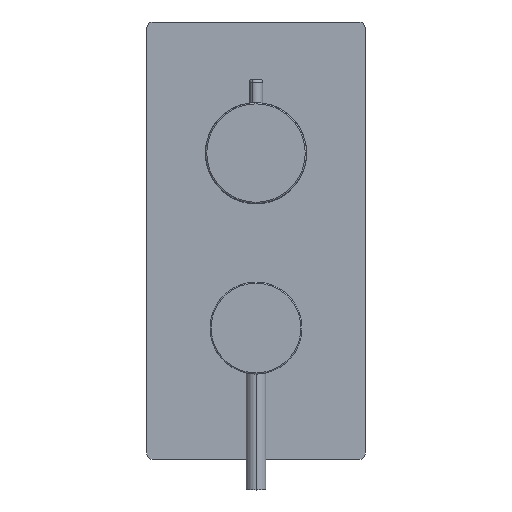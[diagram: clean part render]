
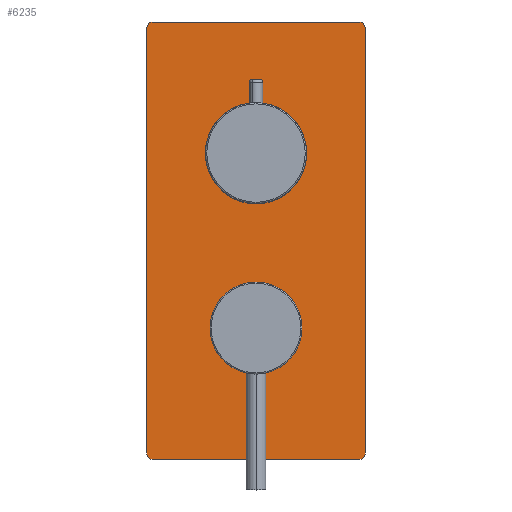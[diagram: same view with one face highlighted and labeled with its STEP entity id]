
A CAD part, top view. The second image highlights one B-rep face of the part: STEP entity #6235.
In plain terms, the highlighted planar face has unit normal (0, 0, 1) as drawn and (0, 0, -1) by its records, which use the part's own axes.
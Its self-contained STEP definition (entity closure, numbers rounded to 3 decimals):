
#66 = CIRCLE ( 'NONE', #23169, 20.7 ) ;
#136 = FACE_OUTER_BOUND ( 'NONE', #3936, .T. ) ;
#899 = EDGE_CURVE ( 'NONE', #25904, #6574, #38615, .T. ) ;
#1177 = AXIS2_PLACEMENT_3D ( 'NONE', #35202, #10245, #19746 ) ;
#1630 = VERTEX_POINT ( 'NONE', #13701 ) ;
#1998 = CARTESIAN_POINT ( 'NONE',  ( -97., -47., 0. ) ) ;
#2691 = CIRCLE ( 'NONE', #31033, 3. ) ;
#2893 = CARTESIAN_POINT ( 'NONE',  ( -97., 50., 0. ) ) ;
#2937 = EDGE_CURVE ( 'NONE', #25904, #14410, #10973, .T. ) ;
#3233 = EDGE_CURVE ( 'NONE', #27680, #19166, #22961, .T. ) ;
#3617 = CARTESIAN_POINT ( 'NONE',  ( -100., -47., 0. ) ) ;
#3755 = CARTESIAN_POINT ( 'NONE',  ( -97., 47., 0. ) ) ;
#3936 = EDGE_LOOP ( 'NONE', ( #17776, #4547, #23950, #18374, #36102, #36140, #36968, #8213 ) ) ;
#4018 = DIRECTION ( 'NONE',  ( 1., 0., 0. ) ) ;
#4085 = FACE_BOUND ( 'NONE', #31149, .T. ) ;
#4547 = ORIENTED_EDGE ( 'NONE', *, *, #2937, .T. ) ;
#4867 = DIRECTION ( 'NONE',  ( 1., 0., 0. ) ) ;
#5215 = EDGE_CURVE ( 'NONE', #19166, #27680, #29293, .T. ) ;
#5837 = AXIS2_PLACEMENT_3D ( 'NONE', #1998, #17669, #4867 ) ;
#6206 = AXIS2_PLACEMENT_3D ( 'NONE', #37283, #9010, #11703 ) ;
#6235 = ADVANCED_FACE ( 'NONE', ( #136, #32350, #4085 ), #18935, .F. ) ;
#6539 = VERTEX_POINT ( 'NONE', #15795 ) ;
#6574 = VERTEX_POINT ( 'NONE', #3617 ) ;
#6751 = DIRECTION ( 'NONE',  ( 1., 0., 0. ) ) ;
#6985 = ORIENTED_EDGE ( 'NONE', *, *, #14066, .T. ) ;
#7030 = CARTESIAN_POINT ( 'NONE',  ( -100., -50., 0. ) ) ;
#7276 = DIRECTION ( 'NONE',  ( -1., 0., 0. ) ) ;
#7361 = CARTESIAN_POINT ( 'NONE',  ( 40., 0., 0. ) ) ;
#8213 = ORIENTED_EDGE ( 'NONE', *, *, #31013, .T. ) ;
#8257 = DIRECTION ( 'NONE',  ( 1., 0., 0. ) ) ;
#8443 = DIRECTION ( 'NONE',  ( 0., 0., -1. ) ) ;
#9010 = DIRECTION ( 'NONE',  ( 0., 0., 1. ) ) ;
#10216 = DIRECTION ( 'NONE',  ( 0., 1., 0. ) ) ;
#10245 = DIRECTION ( 'NONE',  ( 0., 0., -1. ) ) ;
#10278 = EDGE_CURVE ( 'NONE', #11248, #6539, #2691, .T. ) ;
#10330 = DIRECTION ( 'NONE',  ( 0., -1., 0. ) ) ;
#10973 = CIRCLE ( 'NONE', #39334, 3. ) ;
#11248 = VERTEX_POINT ( 'NONE', #29838 ) ;
#11389 = EDGE_CURVE ( 'NONE', #32332, #31826, #66, .T. ) ;
#11703 = DIRECTION ( 'NONE',  ( 1., 0., 0. ) ) ;
#11758 = CIRCLE ( 'NONE', #5837, 3. ) ;
#13141 = CARTESIAN_POINT ( 'NONE',  ( 100., -50., 0. ) ) ;
#13252 = EDGE_CURVE ( 'NONE', #34780, #14410, #19442, .T. ) ;
#13264 = CARTESIAN_POINT ( 'NONE',  ( 100., 50., 0. ) ) ;
#13701 = CARTESIAN_POINT ( 'NONE',  ( 100., 47., 0. ) ) ;
#13709 = CIRCLE ( 'NONE', #1177, 3. ) ;
#14066 = EDGE_CURVE ( 'NONE', #31826, #32332, #18721, .T. ) ;
#14183 = DIRECTION ( 'NONE',  ( 1., 0., 0. ) ) ;
#14410 = VERTEX_POINT ( 'NONE', #2893 ) ;
#14612 = CARTESIAN_POINT ( 'NONE',  ( -97., -50., 0. ) ) ;
#14978 = DIRECTION ( 'NONE',  ( 0., 0., 1. ) ) ;
#15142 = CARTESIAN_POINT ( 'NONE',  ( -19.3, 0., 0. ) ) ;
#15570 = DIRECTION ( 'NONE',  ( 1., 0., 0. ) ) ;
#15795 = CARTESIAN_POINT ( 'NONE',  ( 97., -50., 0. ) ) ;
#15955 = CARTESIAN_POINT ( 'NONE',  ( 100., -50., 0. ) ) ;
#17669 = DIRECTION ( 'NONE',  ( 0., 0., -1. ) ) ;
#17683 = AXIS2_PLACEMENT_3D ( 'NONE', #36750, #30962, #8257 ) ;
#17776 = ORIENTED_EDGE ( 'NONE', *, *, #899, .F. ) ;
#18374 = ORIENTED_EDGE ( 'NONE', *, *, #30843, .T. ) ;
#18721 = CIRCLE ( 'NONE', #6206, 20.7 ) ;
#18935 = PLANE ( 'NONE',  #32425 ) ;
#19166 = VERTEX_POINT ( 'NONE', #36442 ) ;
#19442 = LINE ( 'NONE', #13264, #39120 ) ;
#19746 = DIRECTION ( 'NONE',  ( 1., 0., 0. ) ) ;
#19952 = DIRECTION ( 'NONE',  ( 0., 0., 1. ) ) ;
#20768 = VECTOR ( 'NONE', #4018, 1000. ) ;
#21045 = DIRECTION ( 'NONE',  ( 1., 0., 0. ) ) ;
#21487 = CARTESIAN_POINT ( 'NONE',  ( -60.7, 0., 0. ) ) ;
#22718 = DIRECTION ( 'NONE',  ( 0., 0., -1. ) ) ;
#22961 = CIRCLE ( 'NONE', #17683, 23.2 ) ;
#23169 = AXIS2_PLACEMENT_3D ( 'NONE', #30883, #14978, #15570 ) ;
#23888 = VECTOR ( 'NONE', #10330, 1000. ) ;
#23950 = ORIENTED_EDGE ( 'NONE', *, *, #13252, .F. ) ;
#25325 = CARTESIAN_POINT ( 'NONE',  ( 0., 0., 0. ) ) ;
#25904 = VERTEX_POINT ( 'NONE', #37772 ) ;
#26002 = AXIS2_PLACEMENT_3D ( 'NONE', #7361, #19952, #14183 ) ;
#27041 = ORIENTED_EDGE ( 'NONE', *, *, #3233, .T. ) ;
#27680 = VERTEX_POINT ( 'NONE', #35031 ) ;
#28569 = LINE ( 'NONE', #13141, #38473 ) ;
#29293 = CIRCLE ( 'NONE', #26002, 23.2 ) ;
#29838 = CARTESIAN_POINT ( 'NONE',  ( 100., -47., 0. ) ) ;
#30502 = VERTEX_POINT ( 'NONE', #14612 ) ;
#30843 = EDGE_CURVE ( 'NONE', #34780, #1630, #13709, .T. ) ;
#30883 = CARTESIAN_POINT ( 'NONE',  ( -40., 0., 0. ) ) ;
#30962 = DIRECTION ( 'NONE',  ( 0., 0., 1. ) ) ;
#31013 = EDGE_CURVE ( 'NONE', #30502, #6574, #11758, .T. ) ;
#31033 = AXIS2_PLACEMENT_3D ( 'NONE', #36719, #8443, #21045 ) ;
#31149 = EDGE_LOOP ( 'NONE', ( #27041, #34369 ) ) ;
#31826 = VERTEX_POINT ( 'NONE', #21487 ) ;
#32332 = VERTEX_POINT ( 'NONE', #15142 ) ;
#32350 = FACE_BOUND ( 'NONE', #38632, .T. ) ;
#32425 = AXIS2_PLACEMENT_3D ( 'NONE', #25325, #38152, #6751 ) ;
#33583 = EDGE_CURVE ( 'NONE', #30502, #6539, #37651, .T. ) ;
#34369 = ORIENTED_EDGE ( 'NONE', *, *, #5215, .T. ) ;
#34780 = VERTEX_POINT ( 'NONE', #39251 ) ;
#35031 = CARTESIAN_POINT ( 'NONE',  ( 16.8, 0., 0. ) ) ;
#35202 = CARTESIAN_POINT ( 'NONE',  ( 97., 47., 0. ) ) ;
#36102 = ORIENTED_EDGE ( 'NONE', *, *, #38569, .F. ) ;
#36140 = ORIENTED_EDGE ( 'NONE', *, *, #10278, .T. ) ;
#36442 = CARTESIAN_POINT ( 'NONE',  ( 63.2, 0., 0. ) ) ;
#36719 = CARTESIAN_POINT ( 'NONE',  ( 97., -47., 0. ) ) ;
#36750 = CARTESIAN_POINT ( 'NONE',  ( 40., 0., 0. ) ) ;
#36968 = ORIENTED_EDGE ( 'NONE', *, *, #33583, .F. ) ;
#37283 = CARTESIAN_POINT ( 'NONE',  ( -40., 0., 0. ) ) ;
#37651 = LINE ( 'NONE', #15955, #20768 ) ;
#37772 = CARTESIAN_POINT ( 'NONE',  ( -100., 47., 0. ) ) ;
#38152 = DIRECTION ( 'NONE',  ( 0., 0., 1. ) ) ;
#38473 = VECTOR ( 'NONE', #10216, 1000. ) ;
#38569 = EDGE_CURVE ( 'NONE', #11248, #1630, #28569, .T. ) ;
#38615 = LINE ( 'NONE', #7030, #23888 ) ;
#38627 = DIRECTION ( 'NONE',  ( 1., 0., 0. ) ) ;
#38632 = EDGE_LOOP ( 'NONE', ( #6985, #39413 ) ) ;
#39120 = VECTOR ( 'NONE', #7276, 1000. ) ;
#39251 = CARTESIAN_POINT ( 'NONE',  ( 97., 50., 0. ) ) ;
#39334 = AXIS2_PLACEMENT_3D ( 'NONE', #3755, #22718, #38627 ) ;
#39413 = ORIENTED_EDGE ( 'NONE', *, *, #11389, .T. ) ;
